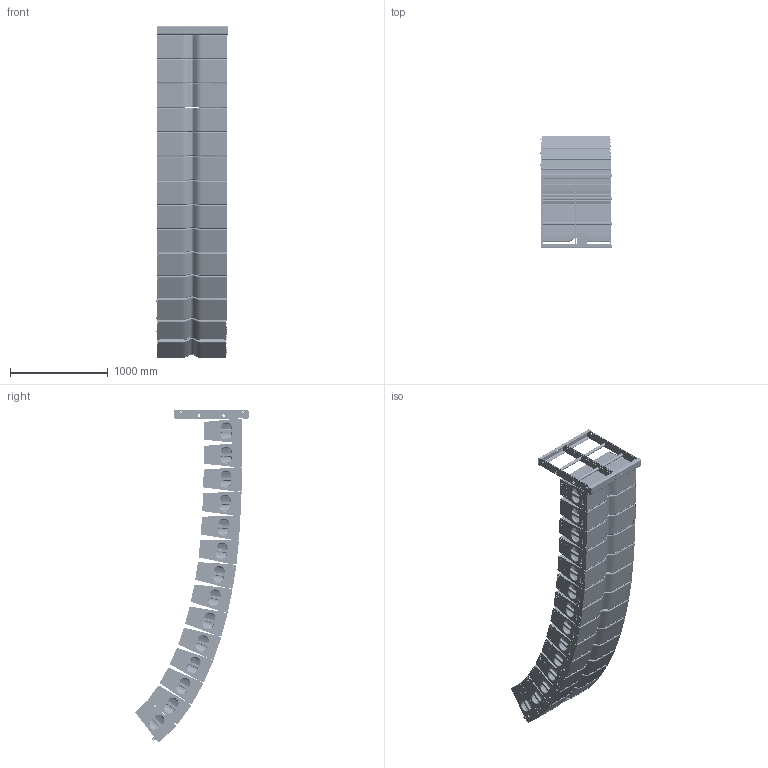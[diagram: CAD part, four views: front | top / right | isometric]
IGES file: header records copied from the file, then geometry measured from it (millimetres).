
Global section: file name: LA28 14 Box ARRAY v4; native system: unknown; preprocessor: unknown; author: unknown; organization: unknown; date: 20230122.003534; units: inch
Bounding box: 728.28 x 1158.94 x 3399.35 mm (x, y, z)
Volume: 808325307 mm3; surface area: 18915688.8 mm2
Topology: 29 solids, 29 shells, 6465 faces, 17107 edges, 11492 vertices
Faces by surface type: bspline 6465
